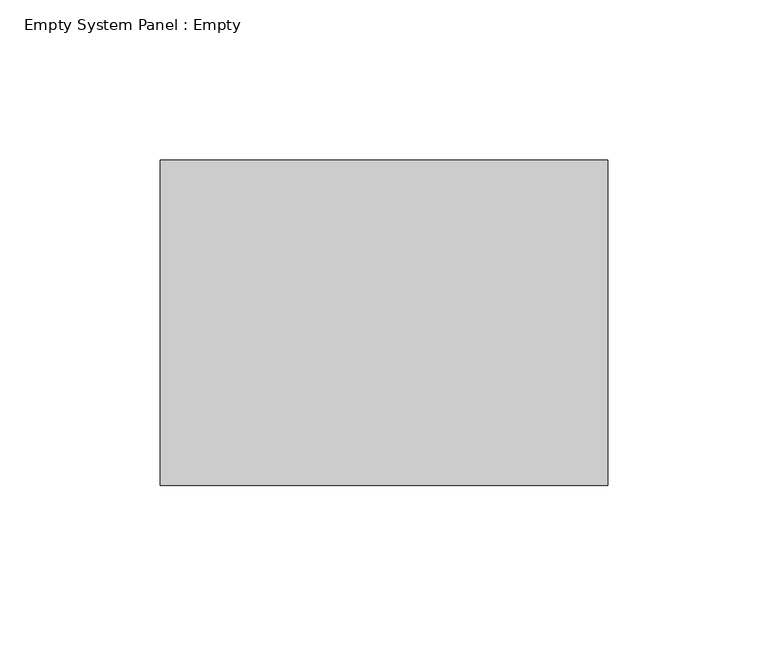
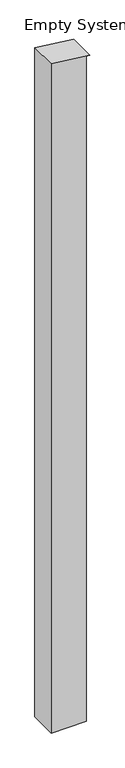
"""IFC4 building model written with IfcOpenShell, lengths in millimetres: plate geometry, Empty System Panel : Empty."""

from ifc_helpers import new_model, si_unit, frame, origin, place, context, project, spatial, polyline, outline, extrude, source, transform, mapped, element, save


def empty_system_panel_empty_f35d5e52(model_context):
    return source(origin(), model_context, "Body", "SweptSolid", [
        extrude(outline(polyline([(0.0, -69.85), (0.0, 57.15), (2536.8087487, 57.15), (2536.8087487, 69.85), (2552.4339387, -69.85), (0.0, -69.85)])), frame((0.0, -50.8, 0.0), z_axis=(0.0, 1.0, 0.0), x_axis=(0.0, 0.0, 1.0)), (0.0, 0.0, 1.0), 101.6),
    ])


if __name__ == "__main__":
    model = new_model("IFC4")
    model_context = context("Model", 3, world=origin())
    ifc_project = project(units=[si_unit("LENGTHUNIT", "METRE", prefix="MILLI")], contexts=[model_context])
    site = spatial("IfcSite", under=ifc_project)
    building = spatial("IfcBuilding", under=site)
    placement = place(None, origin())
    empty_system_panel_empty_shape = empty_system_panel_empty_f35d5e52(model_context)
    element("IfcPlate", 1, ObjectType="Empty System Panel : Empty", at=placement, inside=building, context=model_context, shape_type="MappedRepresentation", body=[
        mapped(empty_system_panel_empty_shape, transform((0.0, 0.0, 0.0), x_axis=(1.0, 0.0, 0.0), y_axis=(0.0, 1.0, 0.0), z_axis=(0.0, 0.0, 1.0))),
    ])
    save(model, "model.ifc")
